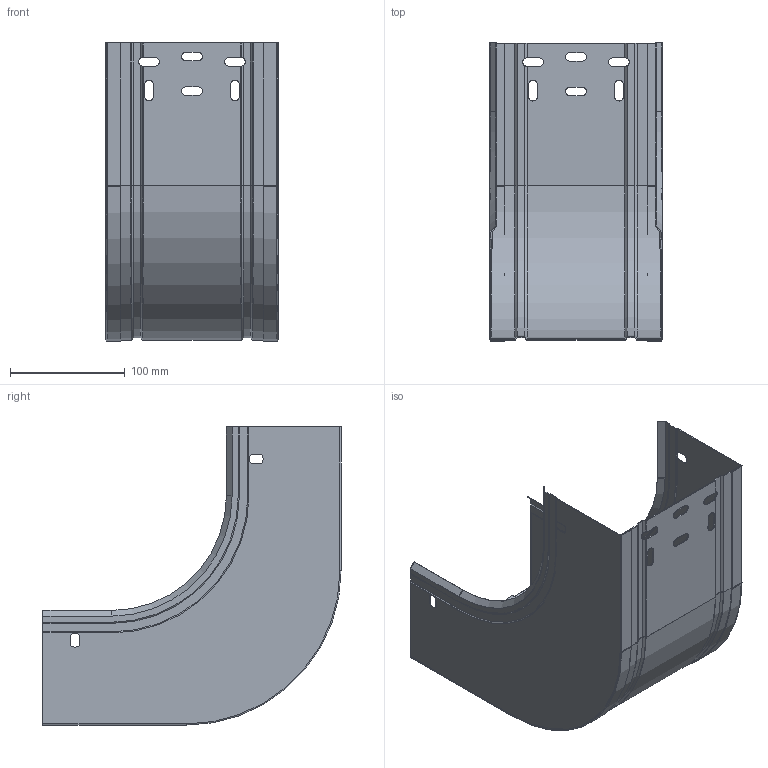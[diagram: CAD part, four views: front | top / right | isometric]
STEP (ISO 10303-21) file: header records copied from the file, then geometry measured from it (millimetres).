
FILE_DESCRIPTION (( 'STEP AP203' ), '1' );
FILE_NAME ('ERE_CONCAVA 150x100.step', '2023-07-27T18:54:18', ( '' ), ( '' ), 'SwSTEP 2.0', 'SolidWorks 2022', '' );
FILE_SCHEMA (( 'CONFIG_CONTROL_DESIGN' ));
Length unit declared in the file: millimetre
Products named in the file (3): ERE_CONCAVA 150x100; ERE_LATERAL CC_100; ERE_BASE CC_150x100
Assembly tree (3 placements, depth 2):
  ERE_CONCAVA 150x100
    ERE_BASE CC_150x100
    ERE_LATERAL CC_100  x2
Bounding box: 150 x 260 x 260 mm (x, y, z)
Volume: 128374.1 mm3; surface area: 324008.6 mm2
Topology: 3 solids, 3 shells, 234 faces, 642 edges, 402 vertices
Faces by surface type: plane 146, cylinder 62, cone 22, torus 4
Entity records: 6006 total; most frequent: CARTESIAN_POINT 1036, ORIENTED_EDGE 988, DIRECTION 969, EDGE_CURVE 494, LINE 353, VECTOR 353, VERTEX_POINT 311, AXIS2_PLACEMENT_3D 308
